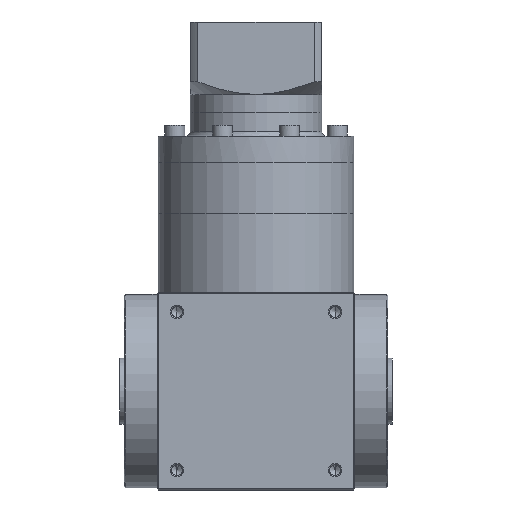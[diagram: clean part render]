
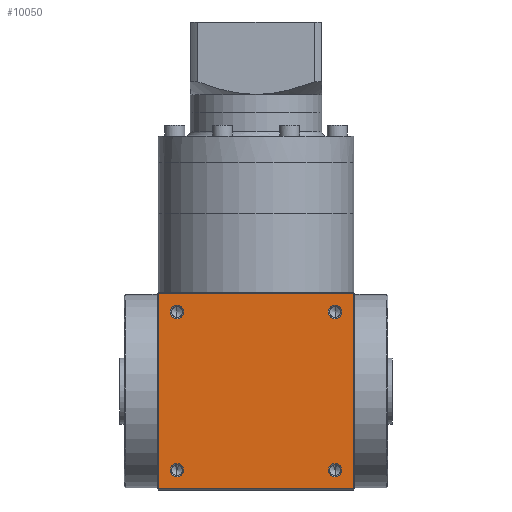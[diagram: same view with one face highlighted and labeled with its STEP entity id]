
A CAD part, front view. The second image highlights one B-rep face of the part: STEP entity #10050.
In plain terms, the highlighted planar face has unit normal (0, -1, 0).
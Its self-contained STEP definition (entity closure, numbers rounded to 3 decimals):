
#756 = AXIS2_PLACEMENT_3D ( 'NONE', #20067, #47635, #24168 ) ;
#856 = DIRECTION ( 'NONE',  ( 1., 0., 0. ) ) ;
#2973 = FACE_BOUND ( 'NONE', #19210, .T. ) ;
#3020 = FACE_BOUND ( 'NONE', #49313, .T. ) ;
#3418 = CARTESIAN_POINT ( 'NONE',  ( -36., -45., 9. ) ) ;
#3500 = FACE_BOUND ( 'NONE', #44166, .T. ) ;
#3552 = FACE_BOUND ( 'NONE', #36299, .T. ) ;
#3560 = FACE_OUTER_BOUND ( 'NONE', #46811, .T. ) ;
#4709 = EDGE_CURVE ( 'NONE', #6219, #44199, #18265, .T. ) ;
#5025 = LINE ( 'NONE', #9323, #26714 ) ;
#5204 = DIRECTION ( 'NONE',  ( -1., 0., 0. ) ) ;
#5585 = VERTEX_POINT ( 'NONE', #28752 ) ;
#5949 = CARTESIAN_POINT ( 'NONE',  ( -44.5, -45., 90. ) ) ;
#6205 = AXIS2_PLACEMENT_3D ( 'NONE', #22799, #50179, #26904 ) ;
#6219 = VERTEX_POINT ( 'NONE', #6840 ) ;
#6840 = CARTESIAN_POINT ( 'NONE',  ( 36., -45., 84.025 ) ) ;
#7446 = DIRECTION ( 'NONE',  ( 0., 0., -1. ) ) ;
#7522 = ORIENTED_EDGE ( 'NONE', *, *, #19699, .F. ) ;
#8004 = DIRECTION ( 'NONE',  ( 0., 0., -1. ) ) ;
#8078 = DIRECTION ( 'NONE',  ( 0., -1., 0. ) ) ;
#9278 = CARTESIAN_POINT ( 'NONE',  ( 44.5, -45., 0.5 ) ) ;
#9323 = CARTESIAN_POINT ( 'NONE',  ( -45., -45., 0.5 ) ) ;
#10050 = ADVANCED_FACE ( 'NONE', ( #3020, #3552, #3500, #2973, #3560 ), #24793, .F. ) ;
#10337 = DIRECTION ( 'NONE',  ( 0., -1., 0. ) ) ;
#10557 = LINE ( 'NONE', #49874, #12042 ) ;
#10826 = CARTESIAN_POINT ( 'NONE',  ( 36., -45., 81. ) ) ;
#11132 = VERTEX_POINT ( 'NONE', #33681 ) ;
#11327 = VERTEX_POINT ( 'NONE', #26347 ) ;
#12042 = VECTOR ( 'NONE', #22639, 1000. ) ;
#13161 = ORIENTED_EDGE ( 'NONE', *, *, #19343, .F. ) ;
#14946 = DIRECTION ( 'NONE',  ( 0., 0., -1. ) ) ;
#16525 = CARTESIAN_POINT ( 'NONE',  ( 44.5, -45., 89.5 ) ) ;
#17388 = CIRCLE ( 'NONE', #38072, 3.025 ) ;
#18265 = CIRCLE ( 'NONE', #31366, 3.025 ) ;
#18569 = CARTESIAN_POINT ( 'NONE',  ( 36., -45., 77.975 ) ) ;
#19000 = CIRCLE ( 'NONE', #26934, 3.025 ) ;
#19210 = EDGE_LOOP ( 'NONE', ( #26418, #29850 ) ) ;
#19343 = EDGE_CURVE ( 'NONE', #43856, #32516, #28498, .T. ) ;
#19699 = EDGE_CURVE ( 'NONE', #50532, #34641, #20350, .T. ) ;
#19858 = EDGE_CURVE ( 'NONE', #44199, #6219, #19000, .T. ) ;
#20067 = CARTESIAN_POINT ( 'NONE',  ( 36., -45., 9. ) ) ;
#20350 = CIRCLE ( 'NONE', #51227, 3.025 ) ;
#20400 = ORIENTED_EDGE ( 'NONE', *, *, #21331, .F. ) ;
#21123 = CARTESIAN_POINT ( 'NONE',  ( -45., -45., 89.5 ) ) ;
#21289 = VERTEX_POINT ( 'NONE', #16525 ) ;
#21331 = EDGE_CURVE ( 'NONE', #28705, #21289, #34213, .T. ) ;
#21902 = VECTOR ( 'NONE', #856, 1000. ) ;
#22053 = CARTESIAN_POINT ( 'NONE',  ( -36., -45., 81. ) ) ;
#22639 = DIRECTION ( 'NONE',  ( 0., 0., -1. ) ) ;
#22799 = CARTESIAN_POINT ( 'NONE',  ( -36., -45., 81. ) ) ;
#23897 = EDGE_CURVE ( 'NONE', #5585, #11327, #40984, .T. ) ;
#24168 = DIRECTION ( 'NONE',  ( 0., 0., -1. ) ) ;
#24615 = DIRECTION ( 'NONE',  ( 0., 0., 1. ) ) ;
#24673 = DIRECTION ( 'NONE',  ( 0., 1., 0. ) ) ;
#24715 = ORIENTED_EDGE ( 'NONE', *, *, #25369, .F. ) ;
#24793 = PLANE ( 'NONE',  #33522 ) ;
#25054 = EDGE_CURVE ( 'NONE', #11132, #28705, #48587, .T. ) ;
#25369 = EDGE_CURVE ( 'NONE', #31352, #11132, #5025, .T. ) ;
#25373 = CARTESIAN_POINT ( 'NONE',  ( -45., -45., 90. ) ) ;
#26158 = DIRECTION ( 'NONE',  ( 0., 0., -1. ) ) ;
#26347 = CARTESIAN_POINT ( 'NONE',  ( -36., -45., 12.025 ) ) ;
#26418 = ORIENTED_EDGE ( 'NONE', *, *, #23897, .F. ) ;
#26714 = VECTOR ( 'NONE', #5204, 1000. ) ;
#26904 = DIRECTION ( 'NONE',  ( 0., 0., -1. ) ) ;
#26934 = AXIS2_PLACEMENT_3D ( 'NONE', #10826, #38890, #14946 ) ;
#27406 = CARTESIAN_POINT ( 'NONE',  ( -36., -45., 84.025 ) ) ;
#28185 = EDGE_CURVE ( 'NONE', #11327, #5585, #17388, .T. ) ;
#28498 = CIRCLE ( 'NONE', #31617, 3.025 ) ;
#28705 = VERTEX_POINT ( 'NONE', #42805 ) ;
#28752 = CARTESIAN_POINT ( 'NONE',  ( -36., -45., 5.975 ) ) ;
#29850 = ORIENTED_EDGE ( 'NONE', *, *, #28185, .F. ) ;
#30082 = DIRECTION ( 'NONE',  ( 0., -1., 0. ) ) ;
#30462 = VECTOR ( 'NONE', #45606, 1000. ) ;
#31345 = CARTESIAN_POINT ( 'NONE',  ( 36., -45., 5.975 ) ) ;
#31352 = VERTEX_POINT ( 'NONE', #9278 ) ;
#31366 = AXIS2_PLACEMENT_3D ( 'NONE', #39234, #30082, #8004 ) ;
#31617 = AXIS2_PLACEMENT_3D ( 'NONE', #34545, #10337, #38416 ) ;
#31784 = DIRECTION ( 'NONE',  ( 0., -1., 0. ) ) ;
#32362 = CARTESIAN_POINT ( 'NONE',  ( -36., -45., 9. ) ) ;
#32516 = VERTEX_POINT ( 'NONE', #31345 ) ;
#32577 = ORIENTED_EDGE ( 'NONE', *, *, #47114, .F. ) ;
#33522 = AXIS2_PLACEMENT_3D ( 'NONE', #25373, #24673, #24615 ) ;
#33681 = CARTESIAN_POINT ( 'NONE',  ( -44.5, -45., 0.5 ) ) ;
#34213 = LINE ( 'NONE', #21123, #21902 ) ;
#34361 = CARTESIAN_POINT ( 'NONE',  ( -36., -45., 77.975 ) ) ;
#34545 = CARTESIAN_POINT ( 'NONE',  ( 36., -45., 9. ) ) ;
#34641 = VERTEX_POINT ( 'NONE', #34361 ) ;
#36141 = ORIENTED_EDGE ( 'NONE', *, *, #25054, .F. ) ;
#36299 = EDGE_LOOP ( 'NONE', ( #32577, #7522 ) ) ;
#36304 = DIRECTION ( 'NONE',  ( 0., 0., -1. ) ) ;
#37115 = EDGE_CURVE ( 'NONE', #32516, #43856, #41515, .T. ) ;
#37755 = ORIENTED_EDGE ( 'NONE', *, *, #19858, .F. ) ;
#37785 = ORIENTED_EDGE ( 'NONE', *, *, #48268, .F. ) ;
#38072 = AXIS2_PLACEMENT_3D ( 'NONE', #3418, #31784, #7446 ) ;
#38416 = DIRECTION ( 'NONE',  ( 0., 0., -1. ) ) ;
#38890 = DIRECTION ( 'NONE',  ( 0., -1., 0. ) ) ;
#39223 = ORIENTED_EDGE ( 'NONE', *, *, #37115, .F. ) ;
#39234 = CARTESIAN_POINT ( 'NONE',  ( 36., -45., 81. ) ) ;
#40501 = AXIS2_PLACEMENT_3D ( 'NONE', #32362, #8078, #36304 ) ;
#40984 = CIRCLE ( 'NONE', #40501, 3.025 ) ;
#41515 = CIRCLE ( 'NONE', #756, 3.025 ) ;
#42805 = CARTESIAN_POINT ( 'NONE',  ( -44.5, -45., 89.5 ) ) ;
#43856 = VERTEX_POINT ( 'NONE', #44059 ) ;
#44059 = CARTESIAN_POINT ( 'NONE',  ( 36., -45., 12.025 ) ) ;
#44166 = EDGE_LOOP ( 'NONE', ( #39223, #13161 ) ) ;
#44199 = VERTEX_POINT ( 'NONE', #18569 ) ;
#44863 = ORIENTED_EDGE ( 'NONE', *, *, #4709, .F. ) ;
#45606 = DIRECTION ( 'NONE',  ( 0., 0., 1. ) ) ;
#46314 = CIRCLE ( 'NONE', #6205, 3.025 ) ;
#46811 = EDGE_LOOP ( 'NONE', ( #24715, #37785, #20400, #36141 ) ) ;
#47114 = EDGE_CURVE ( 'NONE', #34641, #50532, #46314, .T. ) ;
#47635 = DIRECTION ( 'NONE',  ( 0., -1., 0. ) ) ;
#48268 = EDGE_CURVE ( 'NONE', #21289, #31352, #10557, .T. ) ;
#48587 = LINE ( 'NONE', #5949, #30462 ) ;
#49313 = EDGE_LOOP ( 'NONE', ( #37755, #44863 ) ) ;
#49480 = DIRECTION ( 'NONE',  ( 0., -1., 0. ) ) ;
#49874 = CARTESIAN_POINT ( 'NONE',  ( 44.5, -45., 90. ) ) ;
#50179 = DIRECTION ( 'NONE',  ( 0., -1., 0. ) ) ;
#50532 = VERTEX_POINT ( 'NONE', #27406 ) ;
#51227 = AXIS2_PLACEMENT_3D ( 'NONE', #22053, #49480, #26158 ) ;
